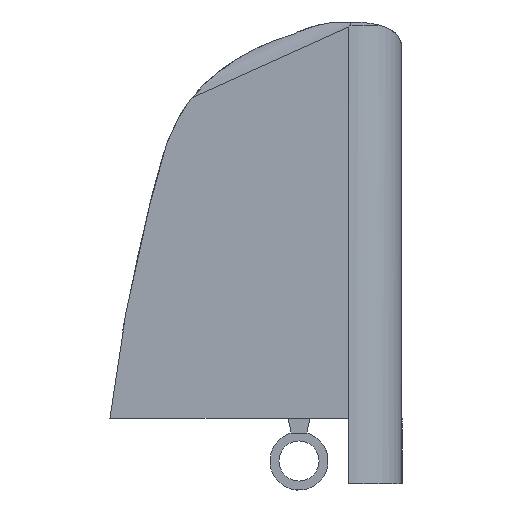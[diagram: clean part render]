
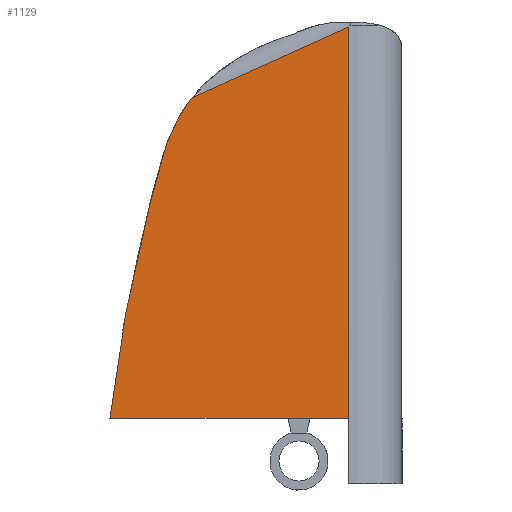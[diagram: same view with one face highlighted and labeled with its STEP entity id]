
A CAD part, front view. The second image highlights one B-rep face of the part: STEP entity #1129.
In plain terms, the highlighted planar face has unit normal (0, -1, 0).
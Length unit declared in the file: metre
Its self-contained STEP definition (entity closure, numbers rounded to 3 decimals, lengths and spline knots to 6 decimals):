
#65=B_SPLINE_CURVE_WITH_KNOTS('',3,(#1703,#1704,#1705,#1706,#1707,#1708,
#1709,#1710),.UNSPECIFIED.,.F.,.F.,(4,1,1,1,1,4),(0.,0.352224,
0.590141,0.75248,0.890701,1.),.UNSPECIFIED.);
#130=ORIENTED_EDGE('',*,*,#472,.T.);
#131=ORIENTED_EDGE('',*,*,#473,.T.);
#132=ORIENTED_EDGE('',*,*,#469,.F.);
#133=ORIENTED_EDGE('',*,*,#474,.T.);
#469=EDGE_CURVE('',#638,#639,#745,.T.);
#472=EDGE_CURVE('',#641,#642,#748,.T.);
#473=EDGE_CURVE('',#642,#639,#65,.F.);
#474=EDGE_CURVE('',#638,#641,#749,.F.);
#638=VERTEX_POINT('',#1693);
#639=VERTEX_POINT('',#1695);
#641=VERTEX_POINT('',#1701);
#642=VERTEX_POINT('',#1702);
#745=LINE('',#1694,#864);
#748=LINE('',#1700,#867);
#749=LINE('',#1711,#868);
#864=VECTOR('',#1334,1.);
#867=VECTOR('',#1339,1.);
#868=VECTOR('',#1340,1.);
#958=EDGE_LOOP('',(#130,#131,#132,#133));
#1023=FACE_BOUND('',#958,.T.);
#1088=PLANE('',#1208);
#1129=ADVANCED_FACE('',(#1023),#1088,.F.);
#1208=AXIS2_PLACEMENT_3D('',#1699,#1337,#1338);
#1334=DIRECTION('',(-1.,0.,0.));
#1337=DIRECTION('',(0.,1.,0.));
#1338=DIRECTION('',(0.,0.,1.));
#1339=DIRECTION('',(-0.911,0.,-0.412));
#1340=DIRECTION('',(0.,0.,-1.));
#1693=CARTESIAN_POINT('',(0.02842,0.059083,0.072136));
#1694=CARTESIAN_POINT('',(0.033529,0.059083,0.072136));
#1695=CARTESIAN_POINT('',(0.005444,0.059083,0.072136));
#1699=CARTESIAN_POINT('',(0.033529,0.059083,0.09073));
#1700=CARTESIAN_POINT('',(0.025476,0.059083,0.108526));
#1701=CARTESIAN_POINT('',(0.02842,0.059083,0.109858));
#1702=CARTESIAN_POINT('',(0.013378,0.059083,0.103052));
#1703=CARTESIAN_POINT('',(0.004807,0.059083,0.019361));
#1704=CARTESIAN_POINT('',(0.004341,0.059083,0.037567));
#1705=CARTESIAN_POINT('',(0.003561,0.059083,0.068069));
#1706=CARTESIAN_POINT('',(0.008897,0.059083,0.091253));
#1707=CARTESIAN_POINT('',(0.011628,0.059083,0.102431));
#1708=CARTESIAN_POINT('',(0.01835,0.059083,0.107545));
#1709=CARTESIAN_POINT('',(0.021602,0.059083,0.108659));
#1710=CARTESIAN_POINT('',(0.023037,0.059083,0.10915));
#1711=CARTESIAN_POINT('',(0.02842,0.059083,0.103908));
